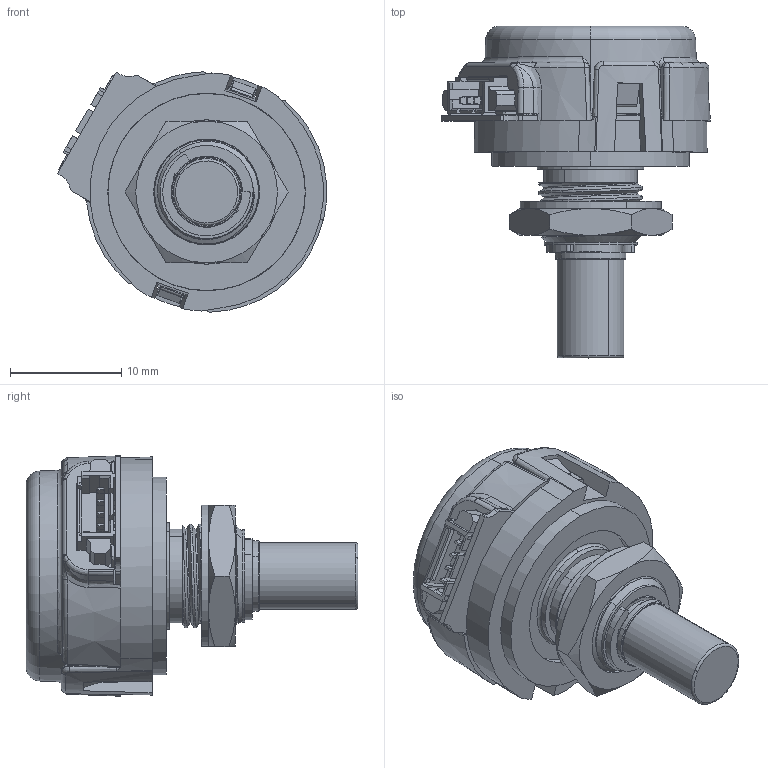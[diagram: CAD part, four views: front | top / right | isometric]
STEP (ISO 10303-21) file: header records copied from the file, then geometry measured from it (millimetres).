
FILE_DESCRIPTION (( 'STEP AP214' ), '1' );
FILE_NAME ('3-D_SPC.STEP', '2012-09-20T15:01:51', ( '' ), ( '' ), 'SwSTEP 2.0', 'SolidWorks 2012', '' );
FILE_SCHEMA (( 'AUTOMOTIVE_DESIGN' ));
Length unit declared in the file: inch
Products named in the file (1): 3-D_SPC
Bounding box: 24.2 x 29.84 x 21.62 mm (x, y, z)
Volume: 3154.4 mm3; surface area: 5562.1 mm2
Topology: 12 solids, 12 shells, 851 faces, 2302 edges, 1487 vertices
Faces by surface type: plane 425, cylinder 182, cone 90, bspline 88, torus 65, sphere 1
Entity records: 42441 total; most frequent: CARTESIAN_POINT 10672, ORIENTED_EDGE 4570, DIRECTION 3950, EDGE_CURVE 2285, VERTEX_POINT 1487, AXIS2_PLACEMENT_3D 1372, LINE 1206, VECTOR 1206
